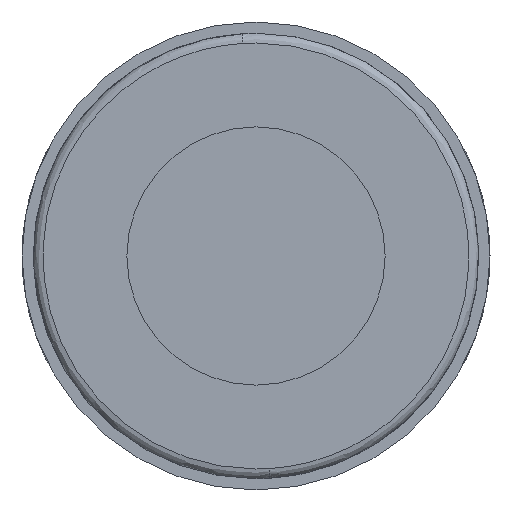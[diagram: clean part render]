
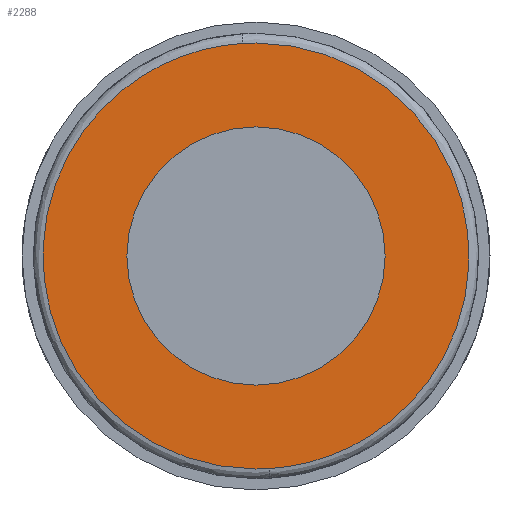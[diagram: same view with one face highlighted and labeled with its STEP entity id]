
A CAD part, left-side view. The second image highlights one B-rep face of the part: STEP entity #2288.
In plain terms, the highlighted planar face has unit normal (-1, 0, 0).
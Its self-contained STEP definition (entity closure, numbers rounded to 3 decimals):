
#22 = CARTESIAN_POINT ( 'NONE',  ( -22.75, -0.408, -6.587 ) ) ;
#42 = CARTESIAN_POINT ( 'NONE',  ( -22.75, -0.272, -6.596 ) ) ;
#125 = ORIENTED_EDGE ( 'NONE', *, *, #540, .F. ) ;
#175 = CARTESIAN_POINT ( 'NONE',  ( -22.75, -0.408, -6.587 ) ) ;
#214 = DIRECTION ( 'NONE',  ( 0., 0., 1. ) ) ;
#273 = EDGE_CURVE ( 'NONE', #2563, #2564, #3364, .T. ) ;
#325 = VERTEX_POINT ( 'NONE', #175 ) ;
#540 = EDGE_CURVE ( 'NONE', #325, #2431, #3725, .T. ) ;
#638 = VERTEX_POINT ( 'NONE', #1865 ) ;
#760 = CARTESIAN_POINT ( 'NONE',  ( -22.75, 0., 6.6 ) ) ;
#837 = VERTEX_POINT ( 'NONE', #760 ) ;
#1017 =( BOUNDED_CURVE ( )  B_SPLINE_CURVE ( 3, ( #2620, #2375, #1792, #22 ),
 .UNSPECIFIED., .F., .T. ) 
 B_SPLINE_CURVE_WITH_KNOTS ( ( 4, 4 ),
 ( 0., 0.98 ),
 .UNSPECIFIED. ) 
 CURVE ( )  GEOMETRIC_REPRESENTATION_ITEM ( )  RATIONAL_B_SPLINE_CURVE ( ( 1., 0.354, 0.354, 1. ) ) 
 REPRESENTATION_ITEM ( '' )  );
#1034 = CARTESIAN_POINT ( 'NONE',  ( -22.75, 0., 0. ) ) ;
#1079 = CARTESIAN_POINT ( 'NONE',  ( -22.75, 0., -4. ) ) ;
#1111 =( BOUNDED_CURVE ( )  B_SPLINE_CURVE ( 3, ( #2592, #2860, #2877, #1415 ),
 .UNSPECIFIED., .F., .T. ) 
 B_SPLINE_CURVE_WITH_KNOTS ( ( 4, 4 ),
 ( 0.98, 1. ),
 .UNSPECIFIED. ) 
 CURVE ( )  GEOMETRIC_REPRESENTATION_ITEM ( )  RATIONAL_B_SPLINE_CURVE ( ( 1., 1., 1., 1. ) ) 
 REPRESENTATION_ITEM ( '' )  );
#1180 = ORIENTED_EDGE ( 'NONE', *, *, #2615, .F. ) ;
#1190 = AXIS2_PLACEMENT_3D ( 'NONE', #1955, #2823, #3338 ) ;
#1380 = PLANE ( 'NONE',  #3616 ) ;
#1396 = EDGE_CURVE ( 'NONE', #2564, #2563, #2946, .T. ) ;
#1397 = DIRECTION ( 'NONE',  ( -1., 0., 0. ) ) ;
#1415 = CARTESIAN_POINT ( 'NONE',  ( -22.75, 0., 6.6 ) ) ;
#1439 = CARTESIAN_POINT ( 'NONE',  ( -22.75, 0.408, 6.587 ) ) ;
#1699 = EDGE_LOOP ( 'NONE', ( #3685, #1180, #2204, #125 ) ) ;
#1714 = ORIENTED_EDGE ( 'NONE', *, *, #1396, .T. ) ;
#1728 = CARTESIAN_POINT ( 'NONE',  ( -22.75, -0.408, -6.587 ) ) ;
#1792 = CARTESIAN_POINT ( 'NONE',  ( -22.75, -12.81, -5.82 ) ) ;
#1865 = CARTESIAN_POINT ( 'NONE',  ( -22.75, 0.408, 6.587 ) ) ;
#1955 = CARTESIAN_POINT ( 'NONE',  ( -22.75, 0., 0. ) ) ;
#2013 = CARTESIAN_POINT ( 'NONE',  ( -22.75, 12.425, -6.6 ) ) ;
#2056 = CARTESIAN_POINT ( 'NONE',  ( -22.75, 0., -6.6 ) ) ;
#2059 = EDGE_LOOP ( 'NONE', ( #2324, #1714 ) ) ;
#2188 = DIRECTION ( 'NONE',  ( 0., 0., -1. ) ) ;
#2204 = ORIENTED_EDGE ( 'NONE', *, *, #3020, .F. ) ;
#2232 = CARTESIAN_POINT ( 'NONE',  ( -22.75, 0., 4. ) ) ;
#2288 = ADVANCED_FACE ( '51', ( #2820, #3696 ), #1380, .T. ) ;
#2324 = ORIENTED_EDGE ( 'NONE', *, *, #273, .T. ) ;
#2372 = CARTESIAN_POINT ( 'NONE',  ( -22.75, -0.136, -6.6 ) ) ;
#2375 = CARTESIAN_POINT ( 'NONE',  ( -22.75, -12.425, 6.6 ) ) ;
#2431 = VERTEX_POINT ( 'NONE', #2056 ) ;
#2563 = VERTEX_POINT ( 'NONE', #1079 ) ;
#2564 = VERTEX_POINT ( 'NONE', #2232 ) ;
#2592 = CARTESIAN_POINT ( 'NONE',  ( -22.75, 0.408, 6.587 ) ) ;
#2615 = EDGE_CURVE ( 'NONE', #638, #837, #1111, .T. ) ;
#2620 = CARTESIAN_POINT ( 'NONE',  ( -22.75, 0., 6.6 ) ) ;
#2793 = DIRECTION ( 'NONE',  ( 1., 0., 0. ) ) ;
#2820 = FACE_BOUND ( 'NONE', #2059, .T. ) ;
#2823 = DIRECTION ( 'NONE',  ( 1., 0., 0. ) ) ;
#2860 = CARTESIAN_POINT ( 'NONE',  ( -22.75, 0.272, 6.596 ) ) ;
#2877 = CARTESIAN_POINT ( 'NONE',  ( -22.75, 0.136, 6.6 ) ) ;
#2897 = EDGE_CURVE ( 'NONE', #837, #325, #1017, .T. ) ;
#2946 = CIRCLE ( 'NONE', #1190, 4. ) ;
#3020 = EDGE_CURVE ( 'NONE', #2431, #638, #3337, .T. ) ;
#3129 = CARTESIAN_POINT ( 'NONE',  ( -22.75, 0., -6.6 ) ) ;
#3167 = CARTESIAN_POINT ( 'NONE',  ( -22.75, 12.81, 5.82 ) ) ;
#3241 = AXIS2_PLACEMENT_3D ( 'NONE', #1034, #2793, #2188 ) ;
#3337 =( BOUNDED_CURVE ( )  B_SPLINE_CURVE ( 3, ( #3129, #2013, #3167, #1439 ),
 .UNSPECIFIED., .F., .T. ) 
 B_SPLINE_CURVE_WITH_KNOTS ( ( 4, 4 ),
 ( 0., 0.98 ),
 .UNSPECIFIED. ) 
 CURVE ( )  GEOMETRIC_REPRESENTATION_ITEM ( )  RATIONAL_B_SPLINE_CURVE ( ( 1., 0.354, 0.354, 1. ) ) 
 REPRESENTATION_ITEM ( '' )  );
#3338 = DIRECTION ( 'NONE',  ( 0., 0., -1. ) ) ;
#3364 = CIRCLE ( 'NONE', #3241, 4. ) ;
#3441 = CARTESIAN_POINT ( 'NONE',  ( -22.75, 7.1, 7.1 ) ) ;
#3508 = CARTESIAN_POINT ( 'NONE',  ( -22.75, 0., -6.6 ) ) ;
#3616 = AXIS2_PLACEMENT_3D ( 'NONE', #3441, #1397, #214 ) ;
#3685 = ORIENTED_EDGE ( 'NONE', *, *, #2897, .F. ) ;
#3696 = FACE_OUTER_BOUND ( 'NONE', #1699, .T. ) ;
#3725 =( BOUNDED_CURVE ( )  B_SPLINE_CURVE ( 3, ( #1728, #42, #2372, #3508 ),
 .UNSPECIFIED., .F., .T. ) 
 B_SPLINE_CURVE_WITH_KNOTS ( ( 4, 4 ),
 ( 0.98, 1. ),
 .UNSPECIFIED. ) 
 CURVE ( )  GEOMETRIC_REPRESENTATION_ITEM ( )  RATIONAL_B_SPLINE_CURVE ( ( 1., 1., 1., 1. ) ) 
 REPRESENTATION_ITEM ( '' )  );
